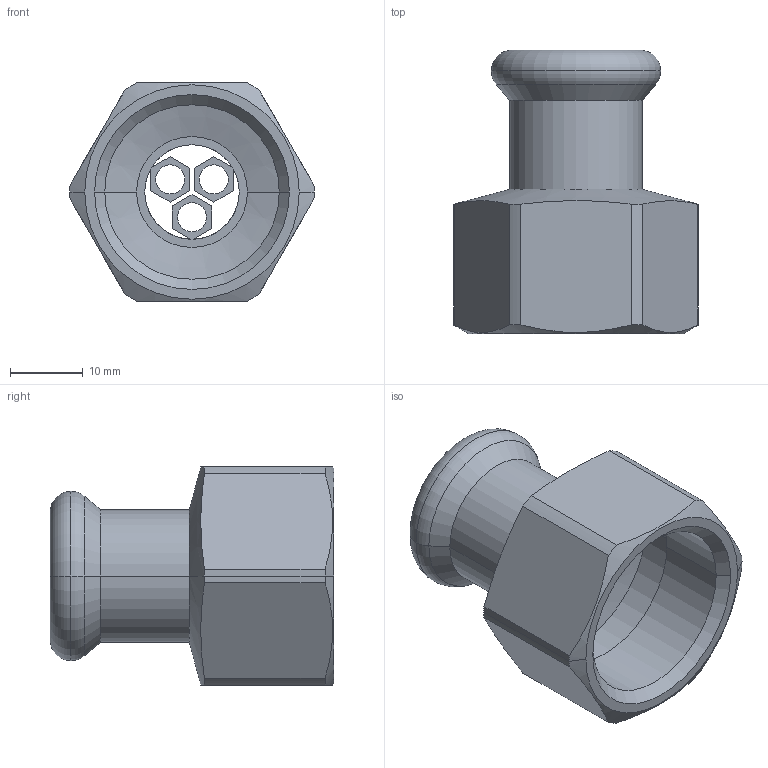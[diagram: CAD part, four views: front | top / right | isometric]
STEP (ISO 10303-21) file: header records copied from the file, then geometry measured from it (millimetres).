
FILE_DESCRIPTION(('OneSpaceDesigner STEP Export'),'2;1');
FILE_NAME('R2702 15xRp3-4.stp','2010-06-08T13:43:17',(''),(''),'OneSpace Designer STEP processor for AP214 (Solid Model)','OneSpace Modeling 15.00A 14-Mar-2007 (C) CoCreate Software GmbH','');
FILE_SCHEMA(('AUTOMOTIVE_DESIGN { 1 0 10303 214 1 1 1 1 }'));
Length unit declared in the file: millimetre
Products named in the file (2): R2702_15xRp3-4
Assembly tree (1 placements, depth 2):
  R2702_15xRp3-4
    R2702_15xRp3-4
Bounding box: 33.61 x 39 x 30 mm (x, y, z)
Volume: 8201.8 mm3; surface area: 7051.6 mm2
Topology: 1 solids, 1 shells, 82 faces, 209 edges, 132 vertices
Faces by surface type: plane 35, cylinder 29, cone 14, torus 4
Entity records: 2901 total; most frequent: CARTESIAN_POINT 1090, ORIENTED_EDGE 418, DIRECTION 301, EDGE_CURVE 209, VERTEX_POINT 132, VECTOR 115, LINE 115, AXIS2_PLACEMENT_3D 93
